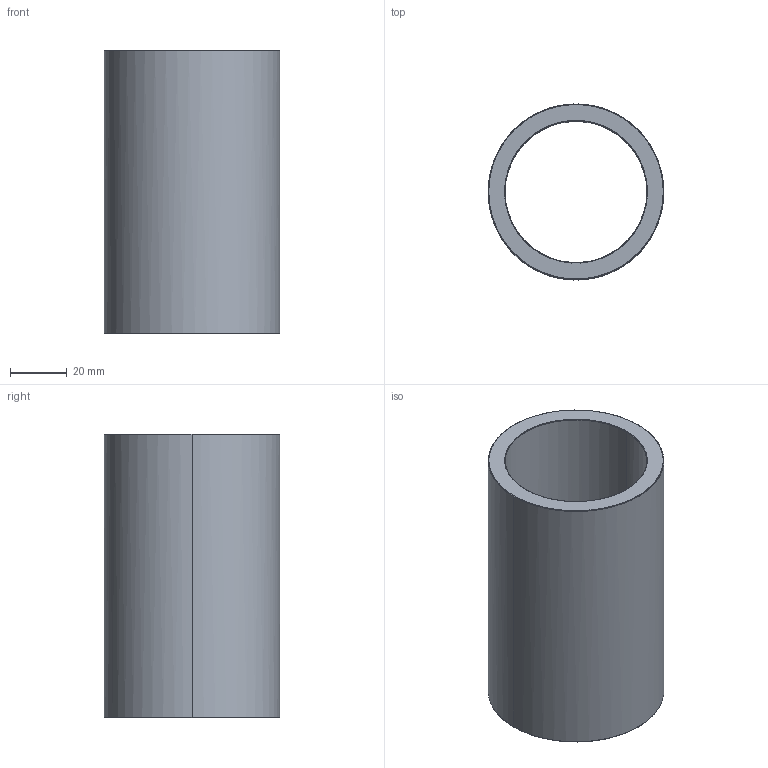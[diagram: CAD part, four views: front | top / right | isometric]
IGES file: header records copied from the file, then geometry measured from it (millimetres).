
Start section: Write IGES format                                    datakit 2008 (c)
Global section: file name: Unknown; native system: DATAKIT Converter; preprocessor: Unknown; author: Unknown; organization: Unknown; date: 950613.180003; units: millimetre
Bounding box: 62 x 61.96 x 100 mm (x, y, z)
Surface area: 37214.5 mm2 (no closed solid volume)
Topology: 0 solids, 0 shells, 14 faces, 56 edges, 56 vertices
Faces by surface type: revolution 12, bspline 2
